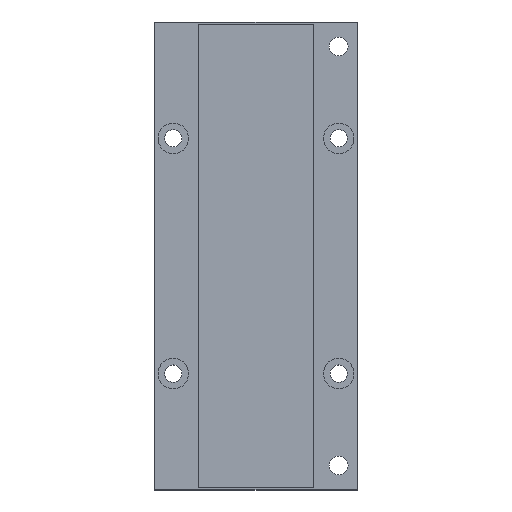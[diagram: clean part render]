
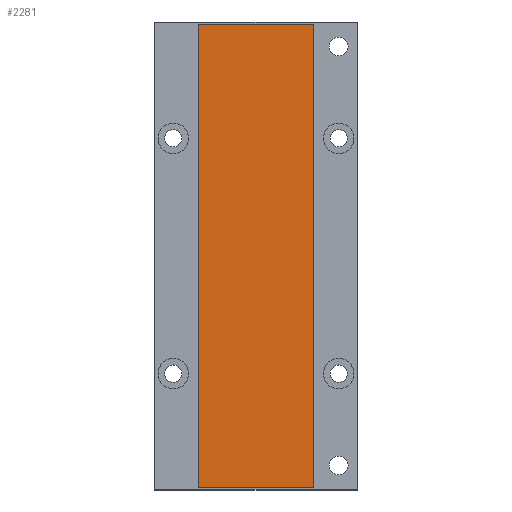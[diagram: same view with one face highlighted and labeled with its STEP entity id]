
A CAD part, top view. The second image highlights one B-rep face of the part: STEP entity #2281.
In plain terms, the highlighted planar face has unit normal (0, 0, 1).
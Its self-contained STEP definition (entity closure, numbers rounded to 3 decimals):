
#778=DIRECTION('',(-1.,0.,0.));
#779=VECTOR('',#778,31.5);
#780=CARTESIAN_POINT('',(15.75,63.,8.25));
#781=LINE('',#780,#779);
#798=DIRECTION('',(-1.,0.,0.));
#799=VECTOR('',#798,31.5);
#800=CARTESIAN_POINT('',(15.75,-63.,8.25));
#801=LINE('',#800,#799);
#802=DIRECTION('',(0.,1.,0.));
#803=VECTOR('',#802,126.);
#804=CARTESIAN_POINT('',(15.75,-63.,8.25));
#805=LINE('',#804,#803);
#806=DIRECTION('',(0.,1.,0.));
#807=VECTOR('',#806,126.);
#808=CARTESIAN_POINT('',(-15.75,-63.,8.25));
#809=LINE('',#808,#807);
#1050=CARTESIAN_POINT('',(15.75,-63.,8.25));
#1051=VERTEX_POINT('',#1050);
#1056=CARTESIAN_POINT('',(-15.75,-63.,8.25));
#1057=VERTEX_POINT('',#1056);
#1058=CARTESIAN_POINT('',(15.75,63.,8.25));
#1059=VERTEX_POINT('',#1058);
#1064=CARTESIAN_POINT('',(-15.75,63.,8.25));
#1065=VERTEX_POINT('',#1064);
#2268=CARTESIAN_POINT('',(0.,0.,8.25));
#2269=DIRECTION('',(0.,0.,1.));
#2270=DIRECTION('',(0.,-1.,0.));
#2271=AXIS2_PLACEMENT_3D('',#2268,#2269,#2270);
#2272=PLANE('',#2271);
#2273=ORIENTED_EDGE('',*,*,#2210,.T.);
#2275=ORIENTED_EDGE('',*,*,#2274,.T.);
#2276=ORIENTED_EDGE('',*,*,#2253,.F.);
#2278=ORIENTED_EDGE('',*,*,#2277,.F.);
#2279=EDGE_LOOP('',(#2273,#2275,#2276,#2278));
#2280=FACE_OUTER_BOUND('',#2279,.F.);
#2281=ADVANCED_FACE('',(#2280),#2272,.T.);
#2210=EDGE_CURVE('',#1051,#1057,#801,.T.);
#2253=EDGE_CURVE('',#1059,#1065,#781,.T.);
#2274=EDGE_CURVE('',#1057,#1065,#809,.T.);
#2277=EDGE_CURVE('',#1051,#1059,#805,.T.);
